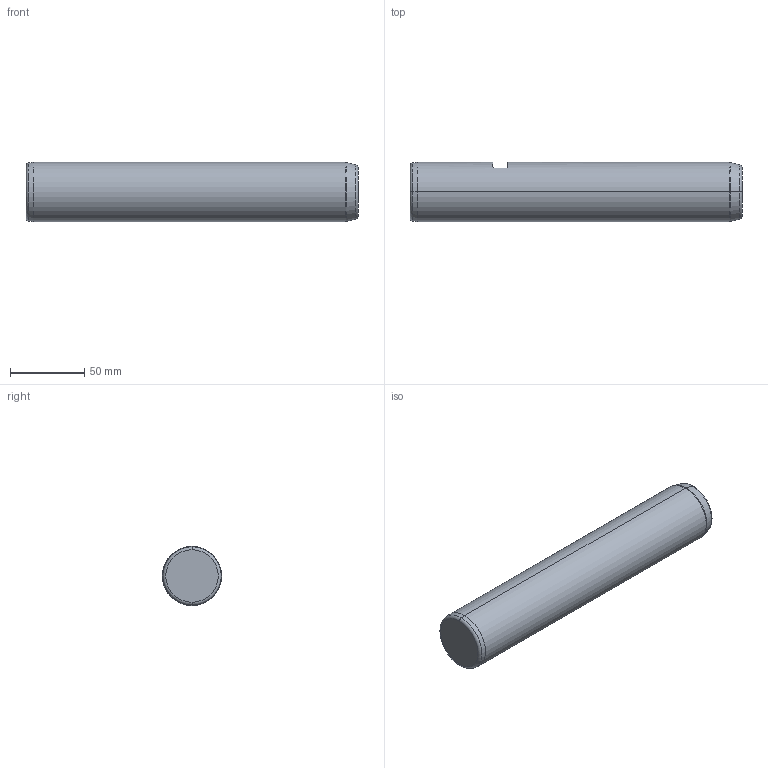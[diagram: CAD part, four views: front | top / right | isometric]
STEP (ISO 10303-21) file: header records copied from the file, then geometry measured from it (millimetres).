
FILE_DESCRIPTION (( 'STEP AP214' ), '1' );
FILE_NAME ('SP202-08-40-224.STEP', '2020-11-03T14:17:40', ( '' ), ( '' ), 'SwSTEP 2.0', 'SolidWorks 2018', '' );
FILE_SCHEMA (( 'AUTOMOTIVE_DESIGN' ));
Length unit declared in the file: millimetre
Products named in the file (1): SP202-08-40-224
Bounding box: 224 x 40 x 40 mm (x, y, z)
Volume: 275267.3 mm3; surface area: 31542.4 mm2
Topology: 1 solids, 1 shells, 26 faces, 54 edges, 31 vertices
Faces by surface type: cylinder 8, cone 6, torus 6, plane 6
Entity records: 740 total; most frequent: CARTESIAN_POINT 146, DIRECTION 132, ORIENTED_EDGE 104, AXIS2_PLACEMENT_3D 57, EDGE_CURVE 52, VERTEX_POINT 31, CIRCLE 30, EDGE_LOOP 29
